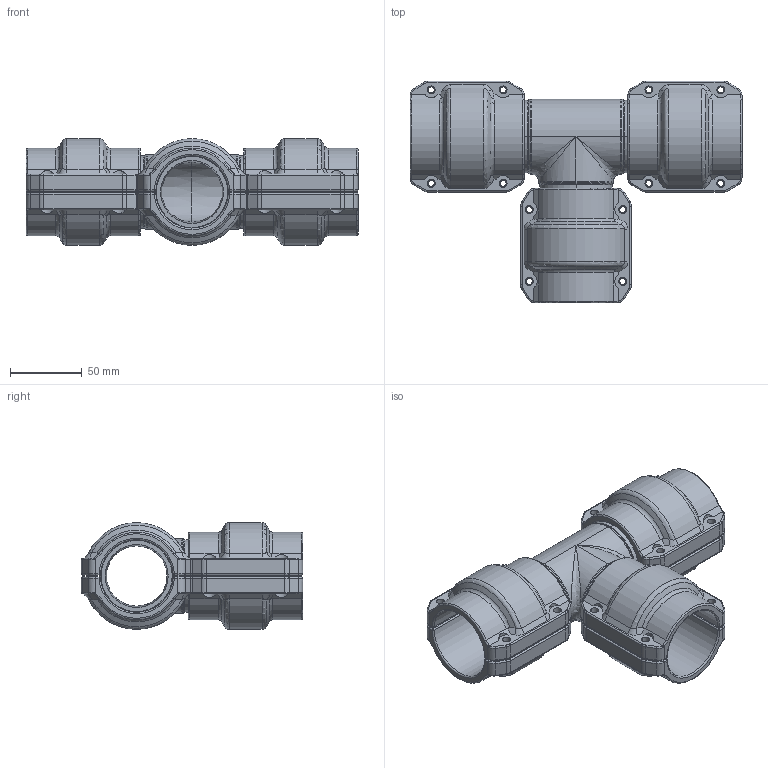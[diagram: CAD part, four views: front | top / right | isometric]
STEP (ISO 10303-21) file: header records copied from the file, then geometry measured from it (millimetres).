
FILE_DESCRIPTION((''),'2;1');
FILE_NAME('2015500599_ASM_10_ASM','2017-05-15T',('Administrator'),(''),'PRO/ENGINEER BY PARAMETRIC TECHNOLOGY CORPORATION, 2009360','PRO/ENGINEER BY PARAMETRIC TECHNOLOGY CORPORATION, 2009360','');
FILE_SCHEMA(('AUTOMOTIVE_DESIGN_CC2 { 1 2 10303 214 -1 1 5 2 }'));
Length unit declared in the file: millimetre
Products named in the file (5): 2015500500_6; 201550020001_1; 201550020000_1; 2015500200_ASM_1_ASM; 2015500599_ASM_10_ASM
Assembly tree (6 placements, depth 3):
  2015500599_ASM_10_ASM
    2015500500_6
    2015500200_ASM_1_ASM  x3
      201550020001_1
      201550020000_1
Bounding box: 231 x 154 x 74.3 mm (x, y, z)
Volume: 515591.1 mm3; surface area: 172516.4 mm2
Topology: 7 solids, 7 shells, 688 faces, 1787 edges, 1084 vertices
Faces by surface type: cylinder 287, torus 168, plane 111, bspline 74, cone 24, sphere 24
Entity records: 11422 total; most frequent: CARTESIAN_POINT 2976, DIRECTION 1384, ORIENTED_EDGE 1326, PRESENTATION_STYLE_ASSIGNMENT 666, STYLED_ITEM 666, CURVE_STYLE 663, EDGE_CURVE 663, AXIS2_PLACEMENT_3D 588
